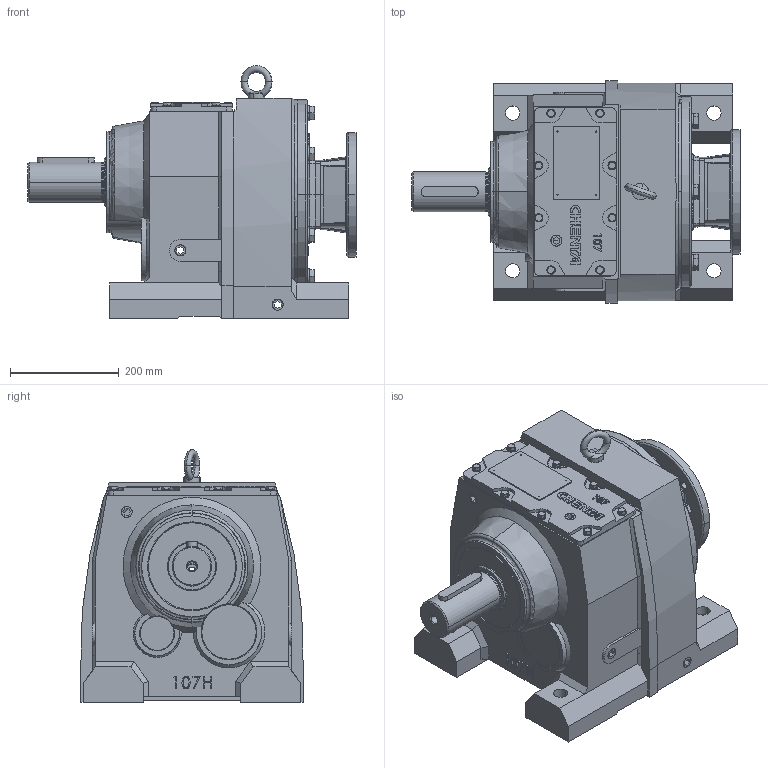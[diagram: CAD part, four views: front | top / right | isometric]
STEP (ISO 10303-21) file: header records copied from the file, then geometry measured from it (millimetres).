
FILE_DESCRIPTION (( 'STEP AP203' ), '1' );
FILE_NAME ('WINL107-213-5TC.STEP', '2013-09-26T10:12:17', ( 'User' ), ( 'Chenta' ), 'SwSTEP 2.0', 'SolidWorks 2011', '' );
FILE_SCHEMA (( 'CONFIG_CONTROL_DESIGN' ));
Length unit declared in the file: millimetre
Products named in the file (1): WINL107-213-5TC
Bounding box: 603 x 409 x 464.35 mm (x, y, z)
Surface area: 1334285.4 mm2 (no closed solid volume)
Topology: 0 solids, 55 shells, 913 faces, 2768 edges, 1918 vertices
Faces by surface type: plane 534, cylinder 167, cone 116, bspline 71, torus 25
Entity records: 39066 total; most frequent: CARTESIAN_POINT 14841, ORIENTED_EDGE 4808, DIRECTION 4736, EDGE_CURVE 2768, VERTEX_POINT 1918, VECTOR 1638, LINE 1638, AXIS2_PLACEMENT_3D 1549
